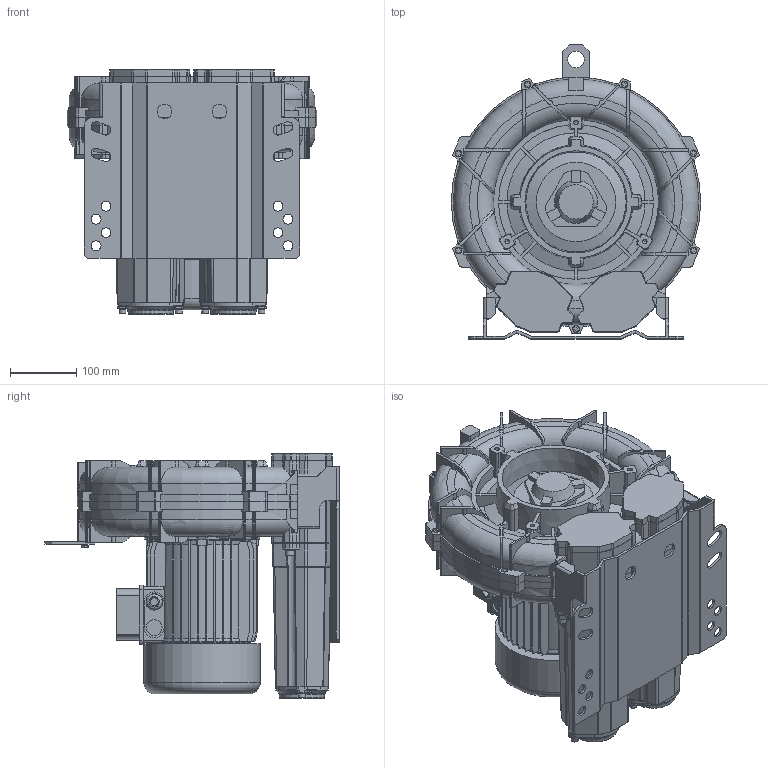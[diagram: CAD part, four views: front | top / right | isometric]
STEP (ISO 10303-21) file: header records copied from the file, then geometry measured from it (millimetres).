
FILE_DESCRIPTION (( 'STEP AP203' ), '1' );
FILE_NAME ('STP-L_e_06_MS_MOR_IE3WR_90_2.2kW-3_25-00.step', '2025-03-03T13:07:23', ( '' ), ( '' ), 'SwSTEP 2.0', 'SolidWorks 2024', '' );
FILE_SCHEMA (( 'CONFIG_CONTROL_DESIGN' ));
Products named in the file (1): STP-L_e_06_MS_MOR_IE3WR_90_2.2kW-3_25-00
Bounding box: 377 x 444.5 x 369.5 mm (x, y, z)
Volume: 17774250.3 mm3; surface area: 1644288.3 mm2
Topology: 65 solids, 65 shells, 3171 faces, 8467 edges, 5423 vertices
Faces by surface type: plane 1553, cylinder 855, cone 342, bspline 222, torus 199
Full cylindrical faces by diameter (mm): 4 x8, 4.917 x7, 5 x9, 5.5 x4, 6 x16, 6.4 x16, 6.5 x1, 6.8 x3, 8 x4, 8.4 x4, 8.5 x4, 10 x32, 12 x1, 13 x8, 14 x1, 15 x8, 18 x2, 20 x2, 22 x2, 24 x2, 25 x1, 57 x2, 73 x2, 140 x1, 146 x1, 176 x1
Entity records: 104488 total; most frequent: CARTESIAN_POINT 29137, ORIENTED_EDGE 15986, DIRECTION 15007, EDGE_CURVE 7993, AXIS2_PLACEMENT_3D 5390, VERTEX_POINT 5306, VECTOR 4227, LINE 4227
